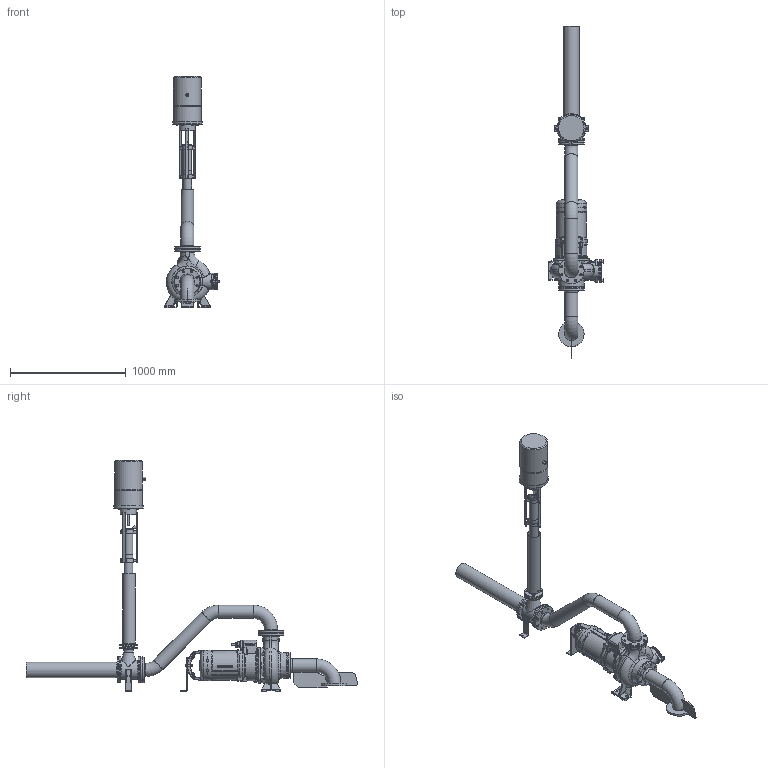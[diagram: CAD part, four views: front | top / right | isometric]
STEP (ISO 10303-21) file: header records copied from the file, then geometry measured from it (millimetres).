
FILE_DESCRIPTION(/* description */ (''),/* implementation_level */ '2;1');
FILE_NAME(/* name */ 'H:\3D\Projekte\@Wirbeljet\700 Amajet_2021_step\SewerAmajet_L_Bottom_suction_KA_16.stp',/* time_stamp */ '2021-04-12T22:44:01+02:00',/* author */ ('emmrpat'),/* organization */ (''),/* preprocessor_version */ 'ST-DEVELOPER v18',/* originating_system */ 'Autodesk Inventor 2020',/* authorisation */ '');
FILE_SCHEMA (('AUTOMOTIVE_DESIGN { 1 0 10303 214 3 1 1 }'));
Length unit declared in the file: millimetre
Products named in the file (66): SewerAmajet_L_Bottom_suction_KA_16; Aufstellung_01; KRT_100-250_komplett; Sewatec_100-250_0W383895_01; Putzlochdeckel_Z065469; ISO 4032 - M16; DIN 188 - M16 x 70; UG155595214_01; ug1004874zmn001_01; ug1004383zmn001_01; ug1510147zmk001_01_BODY; ug1510095zmk001_01; ug1510137zmk001_01; ug1510136zmk001_01; ug1510110zmk001_01; UG154735011ZMM001_02; UG153885001ZMM001_01; ug1012584zmn001_01; ug1002091zmn001_01; UG154911611ZMM001_04; ISO 4032 - M16_1; ISO 7089 -  16; DIN 835 - M16 x 50; Ansaugstück_DN100_Bodenabsaugung; Anschlußrohr_Teil_71-14-01; Bogen DN100 BA3; Bogen DN100 BA3_45°; Losflansch_DN100_PN10_12mm; Vorschweißbördel_30mm_DN100_PN10; Rohr_DN100_585mm; Rohr_DN100_300mm; Stützwinkel_neu_01; Stützwinkel_neu; Klemmblech_neu; ISO 4032 - M10; ISO 7089 - 10 - 140 HV; ISO 4017 - M10 x 55; Dichtung1_DN100_5mm; Flansch_0W308059; 0W308365_Vari_01_Duese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
Assembly tree (127 placements, depth 5):
  SewerAmajet_L_Bottom_suction_KA_16
    Aufstellung_01
      KRT_100-250_komplett
        Sewatec_100-250_0W383895_01
        Putzlochdeckel_Z065469
        ISO 4032 - M16  x2
        ISO 7089 -  16  x2
        DIN 188 - M16 x 70  x2
      UG155595214_01
        ug1004874zmn001_01  x4
        ug1004383zmn001_01  x2
        ug1510147zmk001_01_BODY
          ug1510095zmk001_01
          ug1510137zmk001_01  x12
          ug1510136zmk001_01
          ug1510110zmk001_01
        UG154735011ZMM001_02
        UG153885001ZMM001_01
        ug1012584zmn001_01
        ug1002091zmn001_01
        UG154911611ZMM001_04
        ISO 4032 - M16_1  x4
        ISO 7089 -  16  x4
        DIN 835 - M16 x 50  x4
    Dichtung1_DN100_5mm  x3
    Ansaugstück_DN100_Bodenabsaugung
    Anschlußrohr_Teil_71-14-01
      Bogen DN100 BA3
      Bogen DN100 BA3_45°  x2
      Losflansch_DN100_PN10_12mm  x2
      Vorschweißbördel_30mm_DN100_PN10  x2
      Rohr_DN100_585mm
      Rohr_DN100_300mm
    Stützwinkel_neu_01
      Stützwinkel_neu
      Klemmblech_neu
      ISO 4032 - M10  x2
      ISO 7089 - 10 - 140 HV  x2
      ISO 4017 - M10 x 55  x2
    Flansch_0W308059
    Dichtung_DN100_5mm  x2
    0W308365_Vari_01_Duese
    Strahlrohr_133mm_800mm
    0W308365_Vari_01_Duese_1
    Dichtung_DN65_4mm_110
    0W308366_800mm_Belueftung
      0W308366_800mm_Rohr
      Vorschweißflansch_DN65_PN6
    Kabelschutzrohr_01
    0W382247_Mischkammer
    Verstelllasche  x2
    ISO 7089 -  8  x4
    ISO 4762  - M8 x 16  x4
    Hubmagnet
      01
      06
      08
      02  x3
      03  x2
      05  x4
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Bounding box: 480 x 2870.57 x 1998 mm (x, y, z)
Volume: 47303828.1 mm3; surface area: 7758108.6 mm2
Topology: 122 solids, 122 shells, 3677 faces, 8854 edges, 5458 vertices
Faces by surface type: plane 1254, cylinder 961, bspline 715, torus 379, cone 235, sphere 133
Full cylindrical faces by diameter (mm): 3 x12, 3.05 x2, 3.3 x1, 4 x12, 5 x12, 6 x12, 6.647 x6, 6.8 x1, 7 x24, 8 x15, 8.376 x4, 8.4 x4, 8.5 x6, 9.5 x6, 10 x10, 10.5 x2, 11 x10, 11.5 x8, 12 x8, 13 x8, 13.835 x6, 14 x4, 14.63 x4, 15.25 x1, 16 x25, 16.662 x1, 17 x6, 17.1 x1, 17.5 x4, 18 x61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
Entity records: 135539 total; most frequent: CARTESIAN_POINT 60644, ORIENTED_EDGE 15000, DIRECTION 14809, EDGE_CURVE 7500, AXIS2_PLACEMENT_3D 6163, VERTEX_POINT 4645, EDGE_LOOP 3543, CIRCLE 3381
